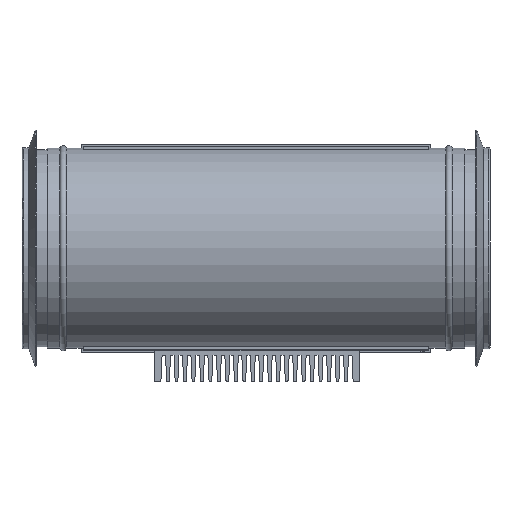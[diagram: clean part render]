
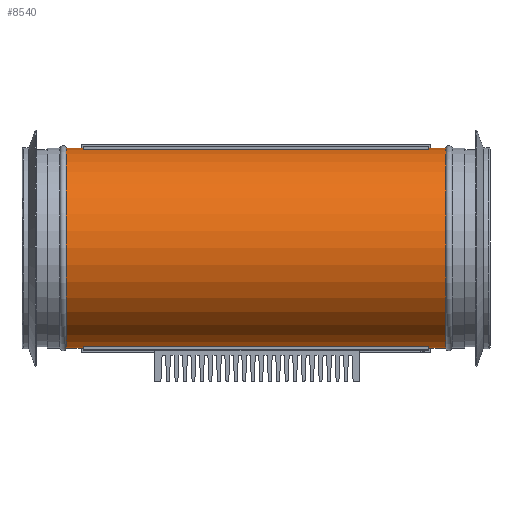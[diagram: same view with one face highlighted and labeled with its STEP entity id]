
A CAD part, top view. The second image highlights one B-rep face of the part: STEP entity #8540.
In plain terms, the highlighted cylindrical face has radius 79 mm (diameter 158 mm), a full revolution.
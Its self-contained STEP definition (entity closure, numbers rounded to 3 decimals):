
#269=FACE_BOUND('',#1658,.T.);
#270=FACE_BOUND('',#1659,.T.);
#1160=FACE_OUTER_BOUND('',#1657,.T.);
#1657=EDGE_LOOP('',(#6788));
#1658=EDGE_LOOP('',(#6789,#6790,#6791,#6792));
#1659=EDGE_LOOP('',(#6793));
#2460=LINE('',#13040,#3118);
#2461=LINE('',#13041,#3119);
#3118=VECTOR('',#10650,10.);
#3119=VECTOR('',#10651,10.);
#3500=CIRCLE('',#9132,79.);
#3506=CIRCLE('',#9139,79.);
#3524=CIRCLE('',#9170,79.);
#3525=CIRCLE('',#9171,79.);
#4091=VERTEX_POINT('',#12913);
#4092=VERTEX_POINT('',#12914);
#4105=VERTEX_POINT('',#12941);
#4106=VERTEX_POINT('',#12943);
#4144=VERTEX_POINT('',#13038);
#4145=VERTEX_POINT('',#13042);
#5079=EDGE_CURVE('',#4091,#4092,#3500,.T.);
#5093=EDGE_CURVE('',#4106,#4105,#3506,.T.);
#5141=EDGE_CURVE('',#4144,#4144,#3524,.T.);
#5142=EDGE_CURVE('',#4092,#4106,#2460,.T.);
#5143=EDGE_CURVE('',#4105,#4091,#2461,.T.);
#5144=EDGE_CURVE('',#4145,#4145,#3525,.T.);
#6788=ORIENTED_EDGE('',*,*,#5141,.F.);
#6789=ORIENTED_EDGE('',*,*,#5079,.T.);
#6790=ORIENTED_EDGE('',*,*,#5142,.T.);
#6791=ORIENTED_EDGE('',*,*,#5093,.T.);
#6792=ORIENTED_EDGE('',*,*,#5143,.T.);
#6793=ORIENTED_EDGE('',*,*,#5144,.T.);
#8332=CYLINDRICAL_SURFACE('',#9169,79.);
#8540=ADVANCED_FACE('',(#1160,#269,#270),#8332,.T.);
#9132=AXIS2_PLACEMENT_3D('',#12915,#10538,#10539);
#9139=AXIS2_PLACEMENT_3D('',#12944,#10560,#10561);
#9169=AXIS2_PLACEMENT_3D('',#13037,#10646,#10647);
#9170=AXIS2_PLACEMENT_3D('',#13039,#10648,#10649);
#9171=AXIS2_PLACEMENT_3D('',#13043,#10652,#10653);
#10538=DIRECTION('center_axis',(-1.,0.,0.));
#10539=DIRECTION('ref_axis',(0.,0.,
-1.));
#10560=DIRECTION('center_axis',(1.,0.,0.));
#10561=DIRECTION('ref_axis',(0.,0.,
-1.));
#10646=DIRECTION('center_axis',(-1.,0.,0.));
#10647=DIRECTION('ref_axis',(0.,0.,
-1.));
#10648=DIRECTION('center_axis',(-1.,0.,0.));
#10649=DIRECTION('ref_axis',(0.,0.,
-1.));
#10650=DIRECTION('',(1.,0.,0.));
#10651=DIRECTION('',(-1.,0.,0.));
#10652=DIRECTION('center_axis',(-1.,0.,0.));
#10653=DIRECTION('ref_axis',(0.,0.,
-1.));
#12913=CARTESIAN_POINT('',(53.2,77.637,12.919));
#12914=CARTESIAN_POINT('',(53.2,-78.237,12.919));
#12915=CARTESIAN_POINT('Origin',(53.2,-0.3,0.));
#12941=CARTESIAN_POINT('',(326.2,77.637,12.919));
#12943=CARTESIAN_POINT('',(326.2,-78.237,12.919));
#12944=CARTESIAN_POINT('Origin',(326.2,-0.3,0.));
#13037=CARTESIAN_POINT('Origin',(189.7,-0.3,0.));
#13038=CARTESIAN_POINT('',(39.808,-0.3,-79.));
#13039=CARTESIAN_POINT('Origin',(39.808,-0.3,0.));
#13040=CARTESIAN_POINT('',(189.7,-78.237,12.919));
#13041=CARTESIAN_POINT('',(189.7,77.637,12.919));
#13042=CARTESIAN_POINT('',(339.592,-0.3,-79.));
#13043=CARTESIAN_POINT('Origin',(339.592,-0.3,0.));
